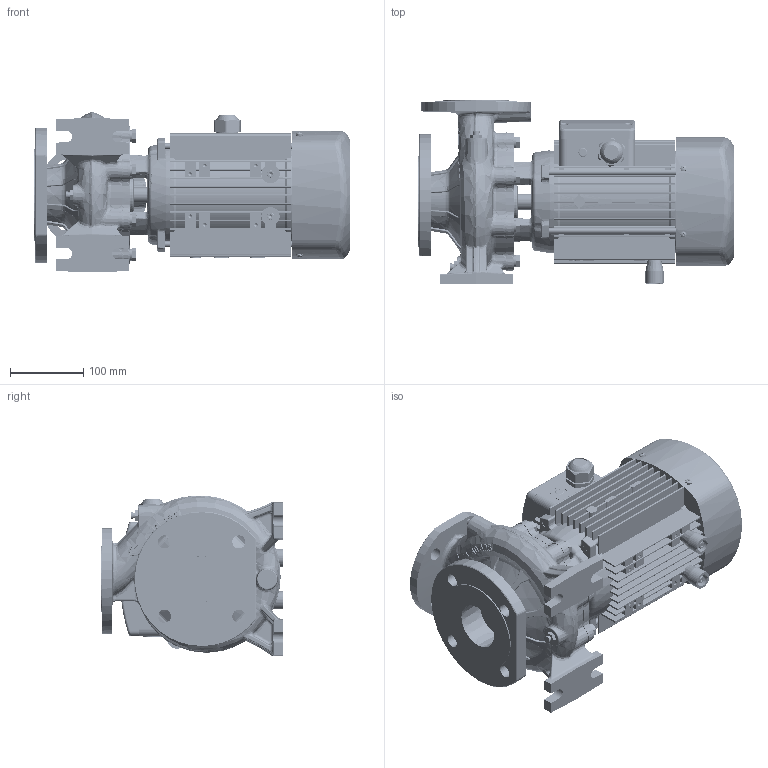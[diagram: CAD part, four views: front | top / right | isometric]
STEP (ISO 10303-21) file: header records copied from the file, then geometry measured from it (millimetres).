
FILE_DESCRIPTION (( 'STEP AP203' ), '1' );
FILE_NAME ('TST40-125-1.5 2.2 安装尺寸图.STEP', '2026-04-27T09:11:33', ( '微软用户' ), ( '微软中国' ), 'SwSTEP 2.0', 'SolidWorks 2020', '' );
FILE_SCHEMA (( 'CONFIG_CONTROL_DESIGN' ));
Products named in the file (1): TST40-125-1.5 2.2 假蚾喜渡芞
Bounding box: 433 x 250.5 x 219.98 mm (x, y, z)
Volume: 9484525.1 mm3; surface area: 758344.6 mm2
Topology: 1 solids, 21 shells, 4021 faces, 10212 edges, 6444 vertices
Faces by surface type: cylinder 1315, plane 1115, bspline 1000, cone 365, torus 177, sphere 49
Entity records: 218007 total; most frequent: CARTESIAN_POINT 129257, ORIENTED_EDGE 20360, DIRECTION 16050, EDGE_CURVE 10180, VERTEX_POINT 6443, AXIS2_PLACEMENT_3D 6422, EDGE_LOOP 4339, FACE_OUTER_BOUND 4021
